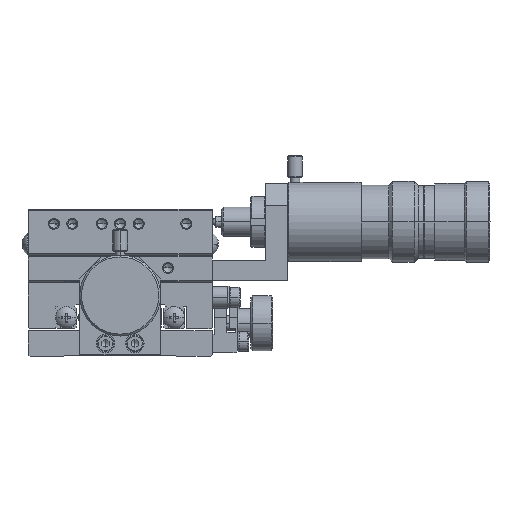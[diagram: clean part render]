
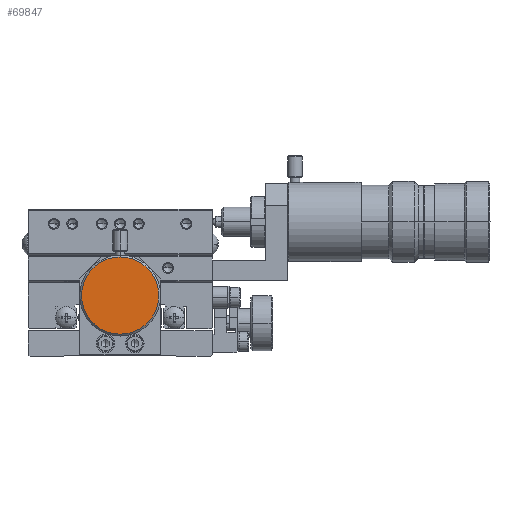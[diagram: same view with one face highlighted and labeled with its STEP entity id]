
A CAD part, front view. The second image highlights one B-rep face of the part: STEP entity #69847.
In plain terms, the highlighted planar face has unit normal (0, -1, 0).
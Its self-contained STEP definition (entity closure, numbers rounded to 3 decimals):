
#37126 = CARTESIAN_POINT ( 'NONE',  ( 10.5, -100.5, -3.5 ) ) ;
#37127 = CARTESIAN_POINT ( 'NONE',  ( -10.5, -100.5, -3.5 ) ) ;
#37128 = DIRECTION ( 'NONE',  ( -1., 0., 0. ) ) ;
#37129 = DIRECTION ( 'NONE',  ( 0., -1., 0. ) ) ;
#37130 = AXIS2_PLACEMENT_3D ( 'NONE', #37137, #37129, #37128 ) ;
#37131 = CIRCLE ( 'NONE', #37130, 10.5 ) ;
#37137 = CARTESIAN_POINT ( 'NONE',  ( 0., -100.5, -3.5 ) ) ;
#37214 = DIRECTION ( 'NONE',  ( -1., 0., 0. ) ) ;
#37215 = DIRECTION ( 'NONE',  ( 0., -1., 0. ) ) ;
#37216 = CARTESIAN_POINT ( 'NONE',  ( 0., -100.5, -3.5 ) ) ;
#37217 = AXIS2_PLACEMENT_3D ( 'NONE', #37216, #37215, #37214 ) ;
#37218 = CIRCLE ( 'NONE', #37217, 10.5 ) ;
#37219 = DIRECTION ( 'NONE',  ( -1., 0., 0. ) ) ;
#37220 = DIRECTION ( 'NONE',  ( 0., -1., 0. ) ) ;
#37221 = CARTESIAN_POINT ( 'NONE',  ( 0., -100.5, -3.5 ) ) ;
#37222 = AXIS2_PLACEMENT_3D ( 'NONE', #37221, #37220, #37219 ) ;
#37223 = PLANE ( 'NONE',  #37222 ) ;
#37224 = FACE_OUTER_BOUND ( 'NONE', #69849, .T. ) ;
#69714 = ORIENTED_EDGE ( 'NONE', *, *, #69742, .T. ) ;
#69742 = EDGE_CURVE ( 'NONE', #69743, #69744, #37131, .T. ) ;
#69743 = VERTEX_POINT ( 'NONE', #37127 ) ;
#69744 = VERTEX_POINT ( 'NONE', #37126 ) ;
#69847 = ADVANCED_FACE ( 'NONE', ( #37224 ), #37223, .T. ) ;
#69849 = EDGE_LOOP ( 'NONE', ( #69850, #69714 ) ) ;
#69850 = ORIENTED_EDGE ( 'NONE', *, *, #69851, .T. ) ;
#69851 = EDGE_CURVE ( 'NONE', #69744, #69743, #37218, .T. ) ;
